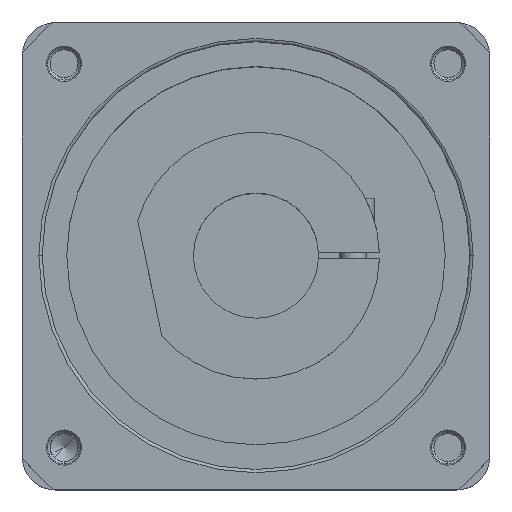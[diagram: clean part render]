
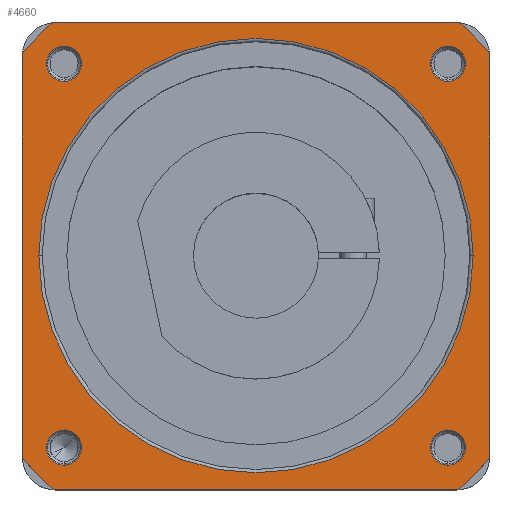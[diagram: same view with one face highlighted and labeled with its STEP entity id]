
A CAD part, top view. The second image highlights one B-rep face of the part: STEP entity #4660.
In plain terms, the highlighted planar face has unit normal (0, 0, 1) as drawn and (0, 1, 0) by its records, which use the part's own axes.
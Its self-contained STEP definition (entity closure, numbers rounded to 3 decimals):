
#3546=CARTESIAN_POINT('',(0.,71.,0.));
#3547=DIRECTION('',(0.,1.,0.));
#3548=DIRECTION('',(0.755,0.,-0.655));
#3549=AXIS2_PLACEMENT_3D('',#3546,#3547,#3548);
#3551=DIRECTION('',(0.,0.,-1.));
#3552=VECTOR('',#3551,123.207);
#3553=CARTESIAN_POINT('',(71.,71.,61.604));
#3554=LINE('',#3553,#3552);
#3555=CARTESIAN_POINT('',(0.,71.,0.));
#3556=DIRECTION('',(0.,1.,0.));
#3557=DIRECTION('',(0.655,0.,0.755));
#3558=AXIS2_PLACEMENT_3D('',#3555,#3556,#3557);
#3560=DIRECTION('',(1.,0.,0.));
#3561=VECTOR('',#3560,123.207);
#3562=CARTESIAN_POINT('',(-61.604,71.,71.));
#3563=LINE('',#3562,#3561);
#3564=CARTESIAN_POINT('',(0.,71.,0.));
#3565=DIRECTION('',(0.,1.,0.));
#3566=DIRECTION('',(-0.755,0.,0.655));
#3567=AXIS2_PLACEMENT_3D('',#3564,#3565,#3566);
#3569=DIRECTION('',(0.,0.,1.));
#3570=VECTOR('',#3569,123.207);
#3571=CARTESIAN_POINT('',(-71.,71.,-61.604));
#3572=LINE('',#3571,#3570);
#3573=CARTESIAN_POINT('',(0.,71.,0.));
#3574=DIRECTION('',(0.,1.,0.));
#3575=DIRECTION('',(-0.655,0.,-0.755));
#3576=AXIS2_PLACEMENT_3D('',#3573,#3574,#3575);
#3578=DIRECTION('',(-1.,0.,0.));
#3579=VECTOR('',#3578,123.207);
#3580=CARTESIAN_POINT('',(61.604,71.,-71.));
#3581=LINE('',#3580,#3579);
#3582=CARTESIAN_POINT('',(-58.336,71.,58.336));
#3583=DIRECTION('',(0.,-1.,0.));
#3584=DIRECTION('',(1.,0.,0.));
#3585=AXIS2_PLACEMENT_3D('',#3582,#3583,#3584);
#3592=CARTESIAN_POINT('',(-58.336,71.,58.336));
#3593=DIRECTION('',(0.,-1.,0.));
#3594=DIRECTION('',(-1.,0.,0.));
#3595=AXIS2_PLACEMENT_3D('',#3592,#3593,#3594);
#3628=CARTESIAN_POINT('',(-58.336,71.,-58.336));
#3629=DIRECTION('',(0.,-1.,0.));
#3630=DIRECTION('',(1.,0.,0.));
#3631=AXIS2_PLACEMENT_3D('',#3628,#3629,#3630);
#3638=CARTESIAN_POINT('',(-58.336,71.,-58.336));
#3639=DIRECTION('',(0.,-1.,0.));
#3640=DIRECTION('',(-1.,0.,0.));
#3641=AXIS2_PLACEMENT_3D('',#3638,#3639,#3640);
#3674=CARTESIAN_POINT('',(58.336,71.,-58.336));
#3675=DIRECTION('',(0.,-1.,0.));
#3676=DIRECTION('',(1.,0.,0.));
#3677=AXIS2_PLACEMENT_3D('',#3674,#3675,#3676);
#3684=CARTESIAN_POINT('',(58.336,71.,-58.336));
#3685=DIRECTION('',(0.,-1.,0.));
#3686=DIRECTION('',(-1.,0.,0.));
#3687=AXIS2_PLACEMENT_3D('',#3684,#3685,#3686);
#4042=CARTESIAN_POINT('',(58.336,71.,58.336));
#4043=DIRECTION('',(0.,-1.,0.));
#4044=DIRECTION('',(1.,0.,0.));
#4045=AXIS2_PLACEMENT_3D('',#4042,#4043,#4044);
#4052=CARTESIAN_POINT('',(58.336,71.,58.336));
#4053=DIRECTION('',(0.,-1.,0.));
#4054=DIRECTION('',(-1.,0.,0.));
#4055=AXIS2_PLACEMENT_3D('',#4052,#4053,#4054);
#4106=CARTESIAN_POINT('',(0.,71.,0.));
#4107=DIRECTION('',(0.,-1.,0.));
#4108=DIRECTION('',(0.,0.,1.));
#4109=AXIS2_PLACEMENT_3D('',#4106,#4107,#4108);
#4121=CARTESIAN_POINT('',(0.,71.,0.));
#4122=DIRECTION('',(0.,-1.,0.));
#4123=DIRECTION('',(0.,0.,-1.));
#4124=AXIS2_PLACEMENT_3D('',#4121,#4122,#4123);
#4276=CARTESIAN_POINT('',(71.,71.,-61.604));
#4277=CARTESIAN_POINT('',(61.604,71.,-71.));
#4278=VERTEX_POINT('',#4276);
#4279=VERTEX_POINT('',#4277);
#4280=CARTESIAN_POINT('',(-61.604,71.,-71.));
#4281=CARTESIAN_POINT('',(-71.,71.,-61.604));
#4282=VERTEX_POINT('',#4280);
#4283=VERTEX_POINT('',#4281);
#4284=CARTESIAN_POINT('',(-71.,71.,61.604));
#4285=CARTESIAN_POINT('',(-61.604,71.,71.));
#4286=VERTEX_POINT('',#4284);
#4287=VERTEX_POINT('',#4285);
#4288=CARTESIAN_POINT('',(61.604,71.,71.));
#4289=CARTESIAN_POINT('',(71.,71.,61.604));
#4290=VERTEX_POINT('',#4288);
#4291=VERTEX_POINT('',#4289);
#4334=CARTESIAN_POINT('',(63.686,71.,58.336));
#4335=CARTESIAN_POINT('',(52.986,71.,58.336));
#4336=VERTEX_POINT('',#4334);
#4337=VERTEX_POINT('',#4335);
#4342=CARTESIAN_POINT('',(-52.986,71.,58.336));
#4343=CARTESIAN_POINT('',(-63.686,71.,58.336));
#4344=VERTEX_POINT('',#4342);
#4345=VERTEX_POINT('',#4343);
#4350=CARTESIAN_POINT('',(-52.986,71.,-58.336));
#4351=CARTESIAN_POINT('',(-63.686,71.,-58.336));
#4352=VERTEX_POINT('',#4350);
#4353=VERTEX_POINT('',#4351);
#4358=CARTESIAN_POINT('',(63.686,71.,-58.336));
#4359=CARTESIAN_POINT('',(52.986,71.,-58.336));
#4360=VERTEX_POINT('',#4358);
#4361=VERTEX_POINT('',#4359);
#4398=CARTESIAN_POINT('',(0.,71.,66.));
#4399=CARTESIAN_POINT('',(0.,71.,-66.));
#4400=VERTEX_POINT('',#4398);
#4401=VERTEX_POINT('',#4399);
#4610=CARTESIAN_POINT('',(0.,71.,0.));
#4611=DIRECTION('',(0.,-1.,0.));
#4612=DIRECTION('',(-1.,0.,0.));
#4613=AXIS2_PLACEMENT_3D('',#4610,#4611,#4612);
#4614=PLANE('',#4613);
#4615=ORIENTED_EDGE('',*,*,#4572,.F.);
#4617=ORIENTED_EDGE('',*,*,#4616,.F.);
#4619=ORIENTED_EDGE('',*,*,#4618,.F.);
#4621=ORIENTED_EDGE('',*,*,#4620,.F.);
#4623=ORIENTED_EDGE('',*,*,#4622,.F.);
#4625=ORIENTED_EDGE('',*,*,#4624,.F.);
#4626=ORIENTED_EDGE('',*,*,#4587,.F.);
#4627=ORIENTED_EDGE('',*,*,#4597,.F.);
#4628=EDGE_LOOP('',(#4615,#4617,#4619,#4621,#4623,#4625,#4626,#4627));
#4629=FACE_OUTER_BOUND('',#4628,.F.);
#4631=ORIENTED_EDGE('',*,*,#4630,.F.);
#4633=ORIENTED_EDGE('',*,*,#4632,.F.);
#4634=EDGE_LOOP('',(#4631,#4633));
#4635=FACE_BOUND('',#4634,.F.);
#4637=ORIENTED_EDGE('',*,*,#4636,.F.);
#4639=ORIENTED_EDGE('',*,*,#4638,.F.);
#4640=EDGE_LOOP('',(#4637,#4639));
#4641=FACE_BOUND('',#4640,.F.);
#4643=ORIENTED_EDGE('',*,*,#4642,.F.);
#4645=ORIENTED_EDGE('',*,*,#4644,.F.);
#4646=EDGE_LOOP('',(#4643,#4645));
#4647=FACE_BOUND('',#4646,.F.);
#4649=ORIENTED_EDGE('',*,*,#4648,.F.);
#4651=ORIENTED_EDGE('',*,*,#4650,.F.);
#4652=EDGE_LOOP('',(#4649,#4651));
#4653=FACE_BOUND('',#4652,.F.);
#4655=ORIENTED_EDGE('',*,*,#4654,.F.);
#4657=ORIENTED_EDGE('',*,*,#4656,.F.);
#4658=EDGE_LOOP('',(#4655,#4657));
#4659=FACE_BOUND('',#4658,.F.);
#4660=ADVANCED_FACE('',(#4629,#4635,#4641,#4647,#4653,#4659),#4614,.F.);
#3550=CIRCLE('',#3549,94.);
#3559=CIRCLE('',#3558,94.);
#3568=CIRCLE('',#3567,94.);
#3577=CIRCLE('',#3576,94.);
#3586=CIRCLE('',#3585,5.35);
#3596=CIRCLE('',#3595,5.35);
#3632=CIRCLE('',#3631,5.35);
#3642=CIRCLE('',#3641,5.35);
#3678=CIRCLE('',#3677,5.35);
#3688=CIRCLE('',#3687,5.35);
#4046=CIRCLE('',#4045,5.35);
#4056=CIRCLE('',#4055,5.35);
#4110=CIRCLE('',#4109,66.);
#4125=CIRCLE('',#4124,66.);
#4572=EDGE_CURVE('',#4278,#4279,#3550,.T.);
#4587=EDGE_CURVE('',#4282,#4283,#3577,.T.);
#4597=EDGE_CURVE('',#4279,#4282,#3581,.T.);
#4616=EDGE_CURVE('',#4291,#4278,#3554,.T.);
#4618=EDGE_CURVE('',#4290,#4291,#3559,.T.);
#4620=EDGE_CURVE('',#4287,#4290,#3563,.T.);
#4622=EDGE_CURVE('',#4286,#4287,#3568,.T.);
#4624=EDGE_CURVE('',#4283,#4286,#3572,.T.);
#4630=EDGE_CURVE('',#4344,#4345,#3586,.T.);
#4632=EDGE_CURVE('',#4345,#4344,#3596,.T.);
#4636=EDGE_CURVE('',#4352,#4353,#3632,.T.);
#4638=EDGE_CURVE('',#4353,#4352,#3642,.T.);
#4642=EDGE_CURVE('',#4360,#4361,#3678,.T.);
#4644=EDGE_CURVE('',#4361,#4360,#3688,.T.);
#4648=EDGE_CURVE('',#4336,#4337,#4046,.T.);
#4650=EDGE_CURVE('',#4337,#4336,#4056,.T.);
#4654=EDGE_CURVE('',#4400,#4401,#4110,.T.);
#4656=EDGE_CURVE('',#4401,#4400,#4125,.T.);
